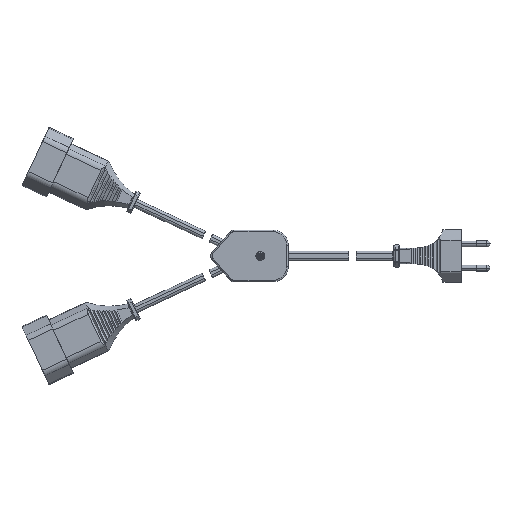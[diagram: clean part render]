
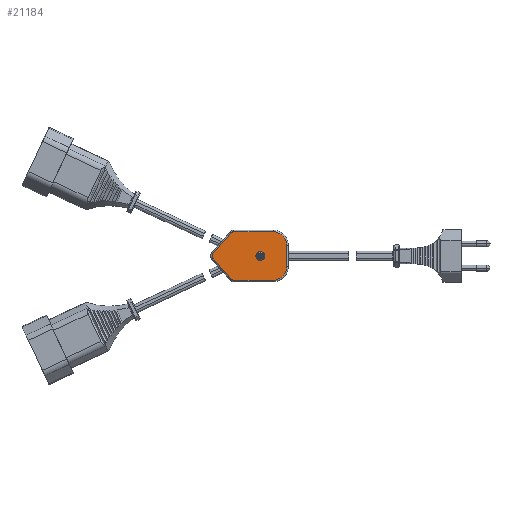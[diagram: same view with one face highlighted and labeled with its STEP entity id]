
A CAD part, top view. The second image highlights one B-rep face of the part: STEP entity #21184.
In plain terms, the highlighted planar face has unit normal (0, 0, 1).
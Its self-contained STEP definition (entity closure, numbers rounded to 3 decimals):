
#142 = CARTESIAN_POINT ( 'NONE',  ( 37.497, 15.427, 14.2 ) ) ;
#424 = VECTOR ( 'NONE', #14435, 1000. ) ;
#510 = AXIS2_PLACEMENT_3D ( 'NONE', #5369, #5147, #12081 ) ;
#517 = CARTESIAN_POINT ( 'NONE',  ( 48.5, 0., 14.2 ) ) ;
#772 = DIRECTION ( 'NONE',  ( 0., 0., 1. ) ) ;
#792 = CIRCLE ( 'NONE', #22220, 9. ) ;
#968 = EDGE_CURVE ( 'NONE', #15250, #15845, #11592, .T. ) ;
#1893 = CARTESIAN_POINT ( 'NONE',  ( 10., 7.1, 14.2 ) ) ;
#1894 = DIRECTION ( 'NONE',  ( 0., 0., 1. ) ) ;
#1904 = CIRCLE ( 'NONE', #14579, 9. ) ;
#2197 = EDGE_CURVE ( 'NONE', #15639, #21156, #11627, .T. ) ;
#2283 = DIRECTION ( 'NONE',  ( 1., 0., 0. ) ) ;
#2288 = DIRECTION ( 'NONE',  ( 0., 0., 1. ) ) ;
#2457 = DIRECTION ( 'NONE',  ( 0., 0., 1. ) ) ;
#2647 = LINE ( 'NONE', #21736, #3056 ) ;
#2715 = CARTESIAN_POINT ( 'NONE',  ( 10., 16.1, 14.2 ) ) ;
#2894 = EDGE_CURVE ( 'NONE', #15845, #15250, #12301, .T. ) ;
#3056 = VECTOR ( 'NONE', #6152, 1000. ) ;
#3270 = EDGE_CURVE ( 'NONE', #8228, #8008, #6115, .T. ) ;
#3770 = VERTEX_POINT ( 'NONE', #15454 ) ;
#3796 = CARTESIAN_POINT ( 'NONE',  ( 36., 16.1, 14.2 ) ) ;
#3820 = DIRECTION ( 'NONE',  ( -1., 0., 0. ) ) ;
#4852 = EDGE_CURVE ( 'NONE', #21156, #8228, #12795, .T. ) ;
#5147 = DIRECTION ( 'NONE',  ( 0., 0., -1. ) ) ;
#5182 = CARTESIAN_POINT ( 'NONE',  ( 18.5, 0., 14.2 ) ) ;
#5198 = ORIENTED_EDGE ( 'NONE', *, *, #3270, .T. ) ;
#5295 = DIRECTION ( 'NONE',  ( 0., 0., 1. ) ) ;
#5327 = CARTESIAN_POINT ( 'NONE',  ( 10., -7.1, 14.2 ) ) ;
#5369 = CARTESIAN_POINT ( 'NONE',  ( 48.5, 0., 14.2 ) ) ;
#5408 = DIRECTION ( 'NONE',  ( 1., 0., 0. ) ) ;
#5695 = LINE ( 'NONE', #12635, #424 ) ;
#6115 = CIRCLE ( 'NONE', #9017, 2. ) ;
#6123 = EDGE_LOOP ( 'NONE', ( #11230, #7591, #5198, #8446, #20058, #20430, #20653, #19282, #7048, #11773 ) ) ;
#6152 = DIRECTION ( 'NONE',  ( -1., 0., 0. ) ) ;
#6426 = VERTEX_POINT ( 'NONE', #3796 ) ;
#6595 = EDGE_CURVE ( 'NONE', #6426, #21308, #2647, .T. ) ;
#6707 = CARTESIAN_POINT ( 'NONE',  ( 49.997, 1.327, 14.2 ) ) ;
#6833 = FACE_BOUND ( 'NONE', #19398, .T. ) ;
#6927 = CARTESIAN_POINT ( 'NONE',  ( 21.45, 0., 14.2 ) ) ;
#7048 = ORIENTED_EDGE ( 'NONE', *, *, #15497, .T. ) ;
#7591 = ORIENTED_EDGE ( 'NONE', *, *, #4852, .T. ) ;
#7950 = EDGE_CURVE ( 'NONE', #21171, #6426, #21497, .T. ) ;
#8008 = VERTEX_POINT ( 'NONE', #6707 ) ;
#8059 = VECTOR ( 'NONE', #14907, 1000. ) ;
#8228 = VERTEX_POINT ( 'NONE', #11583 ) ;
#8446 = ORIENTED_EDGE ( 'NONE', *, *, #9105, .T. ) ;
#9017 = AXIS2_PLACEMENT_3D ( 'NONE', #517, #2457, #10862 ) ;
#9105 = EDGE_CURVE ( 'NONE', #8008, #21171, #10240, .T. ) ;
#9352 = CARTESIAN_POINT ( 'NONE',  ( 36., -16.1, 14.2 ) ) ;
#9514 = EDGE_CURVE ( 'NONE', #3770, #15639, #5695, .T. ) ;
#9581 = CARTESIAN_POINT ( 'NONE',  ( 1., -7.1, 14.2 ) ) ;
#10104 = AXIS2_PLACEMENT_3D ( 'NONE', #5182, #1894, #5408 ) ;
#10138 = CARTESIAN_POINT ( 'NONE',  ( 37.497, -15.427, 14.2 ) ) ;
#10240 = LINE ( 'NONE', #18771, #8059 ) ;
#10534 = AXIS2_PLACEMENT_3D ( 'NONE', #17950, #2288, #16568 ) ;
#10606 = AXIS2_PLACEMENT_3D ( 'NONE', #18882, #18536, #21968 ) ;
#10862 = DIRECTION ( 'NONE',  ( -1., 0., 0. ) ) ;
#10883 = CARTESIAN_POINT ( 'NONE',  ( 1., 0., 14.2 ) ) ;
#11230 = ORIENTED_EDGE ( 'NONE', *, *, #2197, .T. ) ;
#11583 = CARTESIAN_POINT ( 'NONE',  ( 49.997, -1.327, 14.2 ) ) ;
#11592 = CIRCLE ( 'NONE', #16311, 2.95 ) ;
#11627 = CIRCLE ( 'NONE', #10534, 2. ) ;
#11773 = ORIENTED_EDGE ( 'NONE', *, *, #9514, .T. ) ;
#12081 = DIRECTION ( 'NONE',  ( -1., 0., 0. ) ) ;
#12301 = CIRCLE ( 'NONE', #10104, 2.95 ) ;
#12635 = CARTESIAN_POINT ( 'NONE',  ( 48.5, -16.1, 14.2 ) ) ;
#12795 = LINE ( 'NONE', #16527, #16872 ) ;
#14165 = VERTEX_POINT ( 'NONE', #17422 ) ;
#14435 = DIRECTION ( 'NONE',  ( 1., 0., 0. ) ) ;
#14579 = AXIS2_PLACEMENT_3D ( 'NONE', #1893, #5295, #3820 ) ;
#14907 = DIRECTION ( 'NONE',  ( -0.663, 0.748, 0. ) ) ;
#15250 = VERTEX_POINT ( 'NONE', #21707 ) ;
#15454 = CARTESIAN_POINT ( 'NONE',  ( 10., -16.1, 14.2 ) ) ;
#15497 = EDGE_CURVE ( 'NONE', #15757, #3770, #792, .T. ) ;
#15538 = EDGE_CURVE ( 'NONE', #21308, #14165, #1904, .T. ) ;
#15639 = VERTEX_POINT ( 'NONE', #9352 ) ;
#15757 = VERTEX_POINT ( 'NONE', #9581 ) ;
#15768 = LINE ( 'NONE', #10883, #18379 ) ;
#15845 = VERTEX_POINT ( 'NONE', #6927 ) ;
#16194 = DIRECTION ( 'NONE',  ( 0.663, 0.748, 0. ) ) ;
#16311 = AXIS2_PLACEMENT_3D ( 'NONE', #21471, #772, #2283 ) ;
#16382 = EDGE_CURVE ( 'NONE', #14165, #15757, #15768, .T. ) ;
#16527 = CARTESIAN_POINT ( 'NONE',  ( 49.997, -1.327, 14.2 ) ) ;
#16568 = DIRECTION ( 'NONE',  ( -1., 0., 0. ) ) ;
#16872 = VECTOR ( 'NONE', #16194, 1000. ) ;
#17300 = PLANE ( 'NONE',  #510 ) ;
#17371 = DIRECTION ( 'NONE',  ( 0., 0., 1. ) ) ;
#17422 = CARTESIAN_POINT ( 'NONE',  ( 1., 7.1, 14.2 ) ) ;
#17737 = ORIENTED_EDGE ( 'NONE', *, *, #2894, .F. ) ;
#17950 = CARTESIAN_POINT ( 'NONE',  ( 36., -14.1, 14.2 ) ) ;
#18379 = VECTOR ( 'NONE', #21118, 1000. ) ;
#18536 = DIRECTION ( 'NONE',  ( 0., 0., 1. ) ) ;
#18771 = CARTESIAN_POINT ( 'NONE',  ( 49.997, 1.327, 14.2 ) ) ;
#18882 = CARTESIAN_POINT ( 'NONE',  ( 36., 14.1, 14.2 ) ) ;
#19282 = ORIENTED_EDGE ( 'NONE', *, *, #16382, .T. ) ;
#19398 = EDGE_LOOP ( 'NONE', ( #17737, #20712 ) ) ;
#19412 = DIRECTION ( 'NONE',  ( -1., 0., 0. ) ) ;
#20058 = ORIENTED_EDGE ( 'NONE', *, *, #7950, .T. ) ;
#20430 = ORIENTED_EDGE ( 'NONE', *, *, #6595, .T. ) ;
#20653 = ORIENTED_EDGE ( 'NONE', *, *, #15538, .T. ) ;
#20712 = ORIENTED_EDGE ( 'NONE', *, *, #968, .F. ) ;
#20944 = FACE_OUTER_BOUND ( 'NONE', #6123, .T. ) ;
#21118 = DIRECTION ( 'NONE',  ( 0., -1., 0. ) ) ;
#21156 = VERTEX_POINT ( 'NONE', #10138 ) ;
#21171 = VERTEX_POINT ( 'NONE', #142 ) ;
#21184 = ADVANCED_FACE ( 'NONE', ( #20944, #6833 ), #17300, .F. ) ;
#21308 = VERTEX_POINT ( 'NONE', #2715 ) ;
#21471 = CARTESIAN_POINT ( 'NONE',  ( 18.5, 0., 14.2 ) ) ;
#21497 = CIRCLE ( 'NONE', #10606, 2. ) ;
#21707 = CARTESIAN_POINT ( 'NONE',  ( 15.55, 0., 14.2 ) ) ;
#21736 = CARTESIAN_POINT ( 'NONE',  ( 48.5, 16.1, 14.2 ) ) ;
#21968 = DIRECTION ( 'NONE',  ( -1., 0., 0. ) ) ;
#22220 = AXIS2_PLACEMENT_3D ( 'NONE', #5327, #17371, #19412 ) ;
